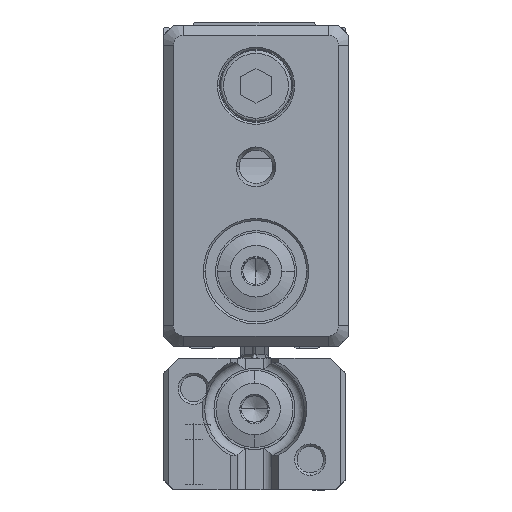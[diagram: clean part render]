
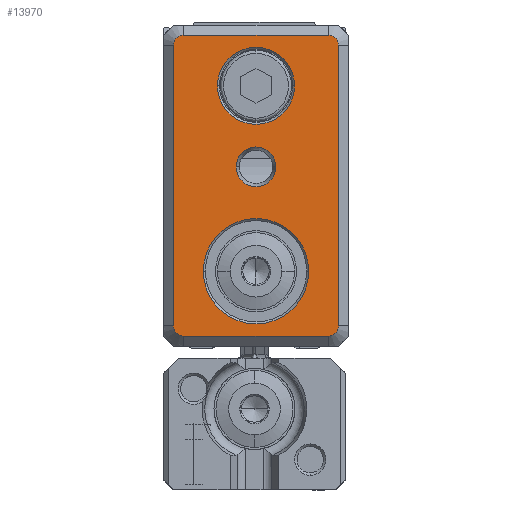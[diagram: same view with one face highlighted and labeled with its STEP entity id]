
A CAD part, left-side view. The second image highlights one B-rep face of the part: STEP entity #13970.
In plain terms, the highlighted planar face has unit normal (-1, 0, 0).
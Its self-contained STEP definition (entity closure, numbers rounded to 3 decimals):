
#11860=CARTESIAN_POINT('',(-93.638,46.3,
-79.283));
#11870=VERTEX_POINT('',#11860);
#11900=CARTESIAN_POINT('',(-93.638,45.3,
-79.283));
#11910=DIRECTION('',(1.,0.,0.));
#11920=DIRECTION('',(0.,1.,0.));
#11930=AXIS2_PLACEMENT_3D('',#11900,#11910,#11920);
#11940=CIRCLE('',#11930,1.);
#11950=CARTESIAN_POINT('',(-93.638,45.3,
-80.283));
#11960=VERTEX_POINT('',#11950);
#11970=EDGE_CURVE('',#11960,#11870,#11940,.T.);
#12870=CARTESIAN_POINT('',(-93.638,38.15,
-65.583));
#12880=DIRECTION('',(1.,0.,0.));
#12890=DIRECTION('',(0.,1.,0.));
#12900=AXIS2_PLACEMENT_3D('',#12870,#12880,#12890);
#12910=PLANE('',#12900);
#12920=CARTESIAN_POINT('',(-93.638,38.15,
-56.983));
#12930=DIRECTION('',(1.,0.,0.));
#12940=DIRECTION('',(0.,-1.,0.));
#12950=AXIS2_PLACEMENT_3D('',#12920,#12930,#12940);
#12960=CIRCLE('',#12950,5.2);
#12970=CARTESIAN_POINT('',(-93.638,32.95,
-56.983));
#12980=VERTEX_POINT('',#12970);
#12990=CARTESIAN_POINT('',(-93.638,43.35,
-56.983));
#13000=VERTEX_POINT('',#12990);
#13010=EDGE_CURVE('',#12980,#13000,#12960,.T.);
#13020=ORIENTED_EDGE('',*,*,#13010,.T.);
#13030=EDGE_CURVE('',#13000,#12980,#12960,.T.);
#13040=ORIENTED_EDGE('',*,*,#13030,.T.);
#13050=EDGE_LOOP('',(#13040,#13020));
#13060=FACE_BOUND('',#13050,.T.);
#13070=CARTESIAN_POINT('',(-93.638,38.15,
-75.283));
#13080=DIRECTION('',(-1.,0.,0.));
#13090=DIRECTION('',(0.,1.,0.));
#13100=AXIS2_PLACEMENT_3D('',#13070,#13080,#13090);
#13110=CIRCLE('',#13100,3.8);
#13120=CARTESIAN_POINT('',(-93.638,34.35,
-75.283));
#13130=VERTEX_POINT('',#13120);
#13140=CARTESIAN_POINT('',(-93.638,41.95,
-75.283));
#13150=VERTEX_POINT('',#13140);
#13160=EDGE_CURVE('',#13130,#13150,#13110,.T.);
#13170=ORIENTED_EDGE('',*,*,#13160,.F.);
#13180=EDGE_CURVE('',#13150,#13130,#13110,.T.);
#13190=ORIENTED_EDGE('',*,*,#13180,.F.);
#13200=EDGE_LOOP('',(#13190,#13170));
#13210=FACE_BOUND('',#13200,.T.);
#13220=CARTESIAN_POINT('',(-93.638,38.15,
-67.283));
#13230=DIRECTION('',(-1.,0.,0.));
#13240=DIRECTION('',(0.,1.,0.));
#13250=AXIS2_PLACEMENT_3D('',#13220,#13230,#13240);
#13260=CIRCLE('',#13250,1.961);
#13270=CARTESIAN_POINT('',(-93.638,40.111,
-67.283));
#13280=VERTEX_POINT('',#13270);
#13290=CARTESIAN_POINT('',(-93.638,36.189,
-67.283));
#13300=VERTEX_POINT('',#13290);
#13310=EDGE_CURVE('',#13280,#13300,#13260,.T.);
#13320=ORIENTED_EDGE('',*,*,#13310,.F.);
#13330=EDGE_CURVE('',#13300,#13280,#13260,.T.);
#13340=ORIENTED_EDGE('',*,*,#13330,.F.);
#13350=EDGE_LOOP('',(#13340,#13320));
#13360=FACE_BOUND('',#13350,.T.);
#13370=CARTESIAN_POINT('',(-93.638,30.,
-49.133));
#13380=DIRECTION('',(0.,0.,1.));
#13390=VECTOR('',#13380,1.);
#13400=LINE('',#13370,#13390);
#13410=CARTESIAN_POINT('',(-93.638,30.,
-79.283));
#13420=VERTEX_POINT('',#13410);
#13430=CARTESIAN_POINT('',(-93.638,30.,
-51.583));
#13440=VERTEX_POINT('',#13430);
#13450=EDGE_CURVE('',#13420,#13440,#13400,.T.);
#13460=ORIENTED_EDGE('',*,*,#13450,.T.);
#13470=CARTESIAN_POINT('',(-93.638,31.,
-79.283));
#13480=DIRECTION('',(1.,0.,0.));
#13490=DIRECTION('',(0.,1.,0.));
#13500=AXIS2_PLACEMENT_3D('',#13470,#13480,#13490);
#13510=CIRCLE('',#13500,1.);
#13520=CARTESIAN_POINT('',(-93.638,31.,
-80.283));
#13530=VERTEX_POINT('',#13520);
#13540=EDGE_CURVE('',#13420,#13530,#13510,.T.);
#13550=ORIENTED_EDGE('',*,*,#13540,.F.);
#13560=CARTESIAN_POINT('',(-93.638,46.9,
-80.283));
#13570=DIRECTION('',(0.,-1.,0.));
#13580=VECTOR('',#13570,1.);
#13590=LINE('',#13560,#13580);
#13600=EDGE_CURVE('',#11960,#13530,#13590,.T.);
#13610=ORIENTED_EDGE('',*,*,#13600,.T.);
#13620=ORIENTED_EDGE('',*,*,#11970,.F.);
#13630=CARTESIAN_POINT('',(-93.638,46.3,
-49.133));
#13640=DIRECTION('',(0.,0.,-1.));
#13650=VECTOR('',#13640,1.);
#13660=LINE('',#13630,#13650);
#13670=CARTESIAN_POINT('',(-93.638,46.3,
-51.583));
#13680=VERTEX_POINT('',#13670);
#13690=EDGE_CURVE('',#13680,#11870,#13660,.T.);
#13700=ORIENTED_EDGE('',*,*,#13690,.T.);
#13710=CARTESIAN_POINT('',(-93.638,45.3,
-51.583));
#13720=DIRECTION('',(1.,0.,0.));
#13730=DIRECTION('',(0.,1.,0.));
#13740=AXIS2_PLACEMENT_3D('',#13710,#13720,#13730);
#13750=CIRCLE('',#13740,1.);
#13760=CARTESIAN_POINT('',(-93.638,45.3,
-50.583));
#13770=VERTEX_POINT('',#13760);
#13780=EDGE_CURVE('',#13680,#13770,#13750,.T.);
#13790=ORIENTED_EDGE('',*,*,#13780,.F.);
#13800=CARTESIAN_POINT('',(-93.638,46.9,
-50.583));
#13810=DIRECTION('',(0.,1.,0.));
#13820=VECTOR('',#13810,1.);
#13830=LINE('',#13800,#13820);
#13840=CARTESIAN_POINT('',(-93.638,31.,
-50.583));
#13850=VERTEX_POINT('',#13840);
#13860=EDGE_CURVE('',#13850,#13770,#13830,.T.);
#13870=ORIENTED_EDGE('',*,*,#13860,.T.);
#13880=CARTESIAN_POINT('',(-93.638,31.,
-51.583));
#13890=DIRECTION('',(1.,0.,0.));
#13900=DIRECTION('',(0.,1.,0.));
#13910=AXIS2_PLACEMENT_3D('',#13880,#13890,#13900);
#13920=CIRCLE('',#13910,1.);
#13930=EDGE_CURVE('',#13850,#13440,#13920,.T.);
#13940=ORIENTED_EDGE('',*,*,#13930,.F.);
#13950=EDGE_LOOP('',(#13940,#13870,#13790,#13700,#13620,#13610,#13550,
#13460));
#13960=FACE_OUTER_BOUND('',#13950,.T.);
#13970=ADVANCED_FACE('',(#13060,#13210,#13360,#13960),#12910,.F.);
